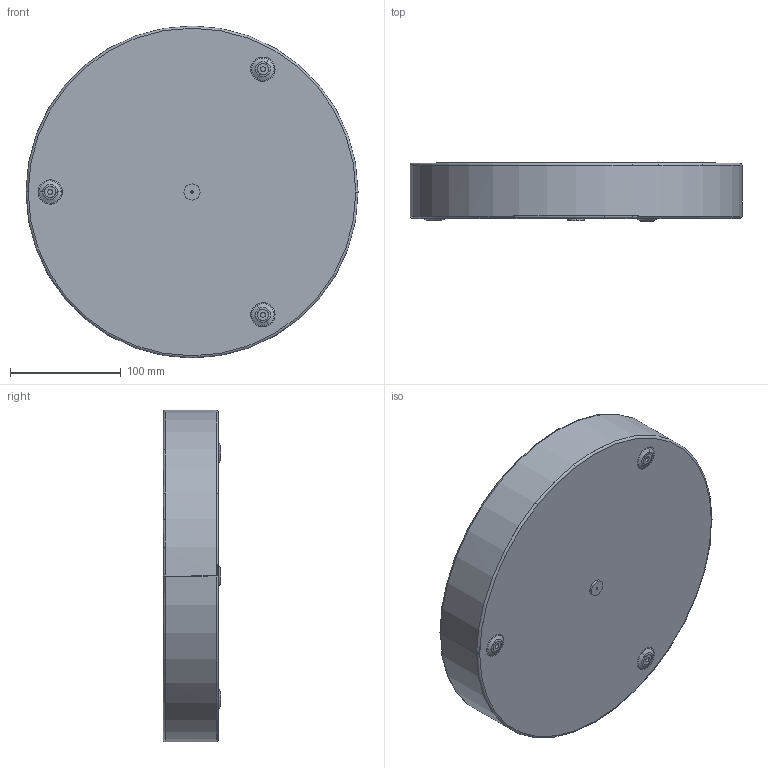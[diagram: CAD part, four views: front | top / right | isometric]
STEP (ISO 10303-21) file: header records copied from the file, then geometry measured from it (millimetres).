
FILE_DESCRIPTION((''),'2;1');
FILE_NAME('KL-D300-24W_ASM','2026-03-18T15:06:46',('Administrator'),(''),'CREO PARAMETRIC BY PTC INC, 2021164','CREO PARAMETRIC BY PTC INC, 2021164','');
FILE_SCHEMA(('CONFIG_CONTROL_DESIGN','SHAPE_APPEARANCE_LAYERS_GROUPS'));
Length unit declared in the file: millimetre
Products named in the file (4): PRT0001__6; PRT0002__2; 300_ASM_10_ASM; KL-D300-24W_ASM
Assembly tree (3 placements, depth 3):
  KL-D300-24W_ASM
    300_ASM_10_ASM
      PRT0001__6
      PRT0002__2
Bounding box: 300 x 52.2 x 300 mm (x, y, z)
Volume: 205270.5 mm3; surface area: 384802.7 mm2
Topology: 2 solids, 2 shells, 56 faces, 168 edges, 122 vertices
Faces by surface type: torus 22, cylinder 18, plane 10, cone 6
Entity records: 3076 total; most frequent: DIRECTION 442, CARTESIAN_POINT 355, ORIENTED_EDGE 336, PRESENTATION_STYLE_ASSIGNMENT 222, STYLED_ITEM 222, AXIS2_PLACEMENT_3D 209, CURVE_STYLE 168, EDGE_CURVE 168
